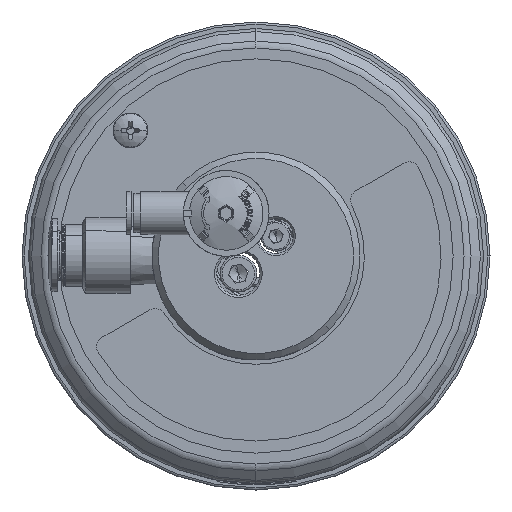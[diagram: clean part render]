
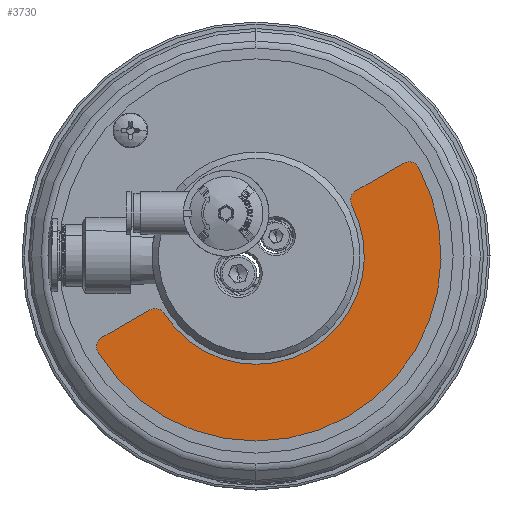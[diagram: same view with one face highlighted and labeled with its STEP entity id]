
A CAD part, front view. The second image highlights one B-rep face of the part: STEP entity #3730.
In plain terms, the highlighted planar face has unit normal (0, -1, 0).
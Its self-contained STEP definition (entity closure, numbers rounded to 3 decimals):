
#19 = DIRECTION ( 'NONE',  ( 0., -1., 0. ) ) ;
#124 = VERTEX_POINT ( 'NONE', #24700 ) ;
#171 = CARTESIAN_POINT ( 'NONE',  ( -35.553, 0.4, -18.795 ) ) ;
#1054 = CIRCLE ( 'NONE', #6664, 42.7 ) ;
#1158 = VERTEX_POINT ( 'NONE', #54672 ) ;
#1592 = CARTESIAN_POINT ( 'NONE',  ( 24.3, 0.4, 12.875 ) ) ;
#2176 = DIRECTION ( 'NONE',  ( 0., 0., -1. ) ) ;
#2599 = CIRCLE ( 'NONE', #55813, 42.7 ) ;
#3194 = ORIENTED_EDGE ( 'NONE', *, *, #46167, .T. ) ;
#3424 = CIRCLE ( 'NONE', #23925, 25. ) ;
#3583 = CARTESIAN_POINT ( 'NONE',  ( 0., 0.4, 0. ) ) ;
#3730 = ADVANCED_FACE ( 'NONE', ( #24963 ), #43141, .T. ) ;
#4475 = VECTOR ( 'NONE', #4619, 1000. ) ;
#4619 = DIRECTION ( 'NONE',  ( -0.866, 0., -0.5 ) ) ;
#5186 = CIRCLE ( 'NONE', #40667, 2.5 ) ;
#5742 = EDGE_CURVE ( 'NONE', #124, #38769, #57138, .T. ) ;
#5996 = EDGE_CURVE ( 'NONE', #47379, #16844, #1054, .T. ) ;
#6664 = AXIS2_PLACEMENT_3D ( 'NONE', #3583, #12666, #21671 ) ;
#7930 = ORIENTED_EDGE ( 'NONE', *, *, #5996, .T. ) ;
#8328 = DIRECTION ( 'NONE',  ( 0., 0., -1. ) ) ;
#8999 = CARTESIAN_POINT ( 'NONE',  ( 23.05, 0.4, 15.04 ) ) ;
#9247 = LINE ( 'NONE', #171, #55091 ) ;
#10107 = VERTEX_POINT ( 'NONE', #50301 ) ;
#10510 = CARTESIAN_POINT ( 'NONE',  ( 0., 0.4, -42.7 ) ) ;
#12314 = DIRECTION ( 'NONE',  ( 0., -1., 0. ) ) ;
#12396 = CARTESIAN_POINT ( 'NONE',  ( 0., 0.4, 0. ) ) ;
#12555 = EDGE_LOOP ( 'NONE', ( #39668, #52118, #41548, #15088, #44731, #16955, #47215, #49470, #7930, #3194 ) ) ;
#12666 = DIRECTION ( 'NONE',  ( 0., -1., 0. ) ) ;
#12922 = EDGE_CURVE ( 'NONE', #38434, #124, #49063, .T. ) ;
#13378 = DIRECTION ( 'NONE',  ( 0., 0., -1. ) ) ;
#14212 = EDGE_CURVE ( 'NONE', #55187, #15008, #9247, .T. ) ;
#14899 = CIRCLE ( 'NONE', #56839, 2.5 ) ;
#15008 = VERTEX_POINT ( 'NONE', #35199 ) ;
#15088 = ORIENTED_EDGE ( 'NONE', *, *, #49236, .T. ) ;
#16243 = CARTESIAN_POINT ( 'NONE',  ( 35.303, 0.4, 19.228 ) ) ;
#16545 = CARTESIAN_POINT ( 'NONE',  ( 22.091, 0.4, 11.704 ) ) ;
#16844 = VERTEX_POINT ( 'NONE', #10510 ) ;
#16955 = ORIENTED_EDGE ( 'NONE', *, *, #50413, .T. ) ;
#18488 = DIRECTION ( 'NONE',  ( 0., -1., 0. ) ) ;
#19634 = DIRECTION ( 'NONE',  ( -0.866, 0., -0.5 ) ) ;
#20271 = CIRCLE ( 'NONE', #36211, 2.5 ) ;
#20837 = CARTESIAN_POINT ( 'NONE',  ( -34.303, 0.4, -20.96 ) ) ;
#21671 = DIRECTION ( 'NONE',  ( 0., 0., -1. ) ) ;
#23763 = EDGE_CURVE ( 'NONE', #1158, #38434, #14899, .T. ) ;
#23925 = AXIS2_PLACEMENT_3D ( 'NONE', #12396, #34310, #2176 ) ;
#24700 = CARTESIAN_POINT ( 'NONE',  ( 23.05, 0.4, 15.04 ) ) ;
#24963 = FACE_OUTER_BOUND ( 'NONE', #12555, .T. ) ;
#26532 = DIRECTION ( 'NONE',  ( 0., 1., 0. ) ) ;
#28198 = AXIS2_PLACEMENT_3D ( 'NONE', #1592, #18488, #50712 ) ;
#28584 = DIRECTION ( 'NONE',  ( 0., 0., -1. ) ) ;
#29936 = DIRECTION ( 'NONE',  ( 0., -1., 0. ) ) ;
#31581 = CARTESIAN_POINT ( 'NONE',  ( 34.053, 0.4, 21.393 ) ) ;
#33601 = CARTESIAN_POINT ( 'NONE',  ( -21.182, 0.4, -13.279 ) ) ;
#33799 = DIRECTION ( 'NONE',  ( 0., -1., 0. ) ) ;
#34310 = DIRECTION ( 'NONE',  ( 0., 1., 0. ) ) ;
#35131 = CARTESIAN_POINT ( 'NONE',  ( -23.3, 0.4, -14.607 ) ) ;
#35199 = CARTESIAN_POINT ( 'NONE',  ( -35.553, 0.4, -18.795 ) ) ;
#36211 = AXIS2_PLACEMENT_3D ( 'NONE', #35131, #19, #40368 ) ;
#37120 = CARTESIAN_POINT ( 'NONE',  ( 35.303, 0.4, 19.228 ) ) ;
#38434 = VERTEX_POINT ( 'NONE', #31581 ) ;
#38609 = CARTESIAN_POINT ( 'NONE',  ( 0., 0.4, 0. ) ) ;
#38769 = VERTEX_POINT ( 'NONE', #16545 ) ;
#39668 = ORIENTED_EDGE ( 'NONE', *, *, #23763, .T. ) ;
#40368 = DIRECTION ( 'NONE',  ( 0., 0., -1. ) ) ;
#40667 = AXIS2_PLACEMENT_3D ( 'NONE', #20837, #29936, #8328 ) ;
#40738 = VERTEX_POINT ( 'NONE', #33601 ) ;
#41548 = ORIENTED_EDGE ( 'NONE', *, *, #5742, .T. ) ;
#43141 = PLANE ( 'NONE',  #44795 ) ;
#44262 = CARTESIAN_POINT ( 'NONE',  ( -36.437, 0.4, -22.263 ) ) ;
#44715 = DIRECTION ( 'NONE',  ( 0., 0., -1. ) ) ;
#44731 = ORIENTED_EDGE ( 'NONE', *, *, #52009, .T. ) ;
#44795 = AXIS2_PLACEMENT_3D ( 'NONE', #16243, #33799, #56845 ) ;
#45001 = CARTESIAN_POINT ( 'NONE',  ( 0., 0.4, 0. ) ) ;
#46167 = EDGE_CURVE ( 'NONE', #16844, #1158, #2599, .T. ) ;
#47215 = ORIENTED_EDGE ( 'NONE', *, *, #14212, .T. ) ;
#47379 = VERTEX_POINT ( 'NONE', #44262 ) ;
#48320 = EDGE_CURVE ( 'NONE', #15008, #47379, #5186, .T. ) ;
#49063 = LINE ( 'NONE', #8999, #4475 ) ;
#49236 = EDGE_CURVE ( 'NONE', #38769, #10107, #3424, .T. ) ;
#49457 = AXIS2_PLACEMENT_3D ( 'NONE', #45001, #26532, #44715 ) ;
#49470 = ORIENTED_EDGE ( 'NONE', *, *, #48320, .T. ) ;
#50301 = CARTESIAN_POINT ( 'NONE',  ( 0., 0.4, -25. ) ) ;
#50303 = CARTESIAN_POINT ( 'NONE',  ( -24.55, 0.4, -12.442 ) ) ;
#50413 = EDGE_CURVE ( 'NONE', #40738, #55187, #20271, .T. ) ;
#50572 = DIRECTION ( 'NONE',  ( 0., -1., 0. ) ) ;
#50712 = DIRECTION ( 'NONE',  ( 0., 0., -1. ) ) ;
#52009 = EDGE_CURVE ( 'NONE', #10107, #40738, #56893, .T. ) ;
#52118 = ORIENTED_EDGE ( 'NONE', *, *, #12922, .T. ) ;
#54672 = CARTESIAN_POINT ( 'NONE',  ( 37.499, 0.4, 20.424 ) ) ;
#55091 = VECTOR ( 'NONE', #19634, 1000. ) ;
#55187 = VERTEX_POINT ( 'NONE', #50303 ) ;
#55813 = AXIS2_PLACEMENT_3D ( 'NONE', #38609, #12314, #13378 ) ;
#56839 = AXIS2_PLACEMENT_3D ( 'NONE', #37120, #50572, #28584 ) ;
#56845 = DIRECTION ( 'NONE',  ( 0., 0., -1. ) ) ;
#56893 = CIRCLE ( 'NONE', #49457, 25. ) ;
#57138 = CIRCLE ( 'NONE', #28198, 2.5 ) ;
